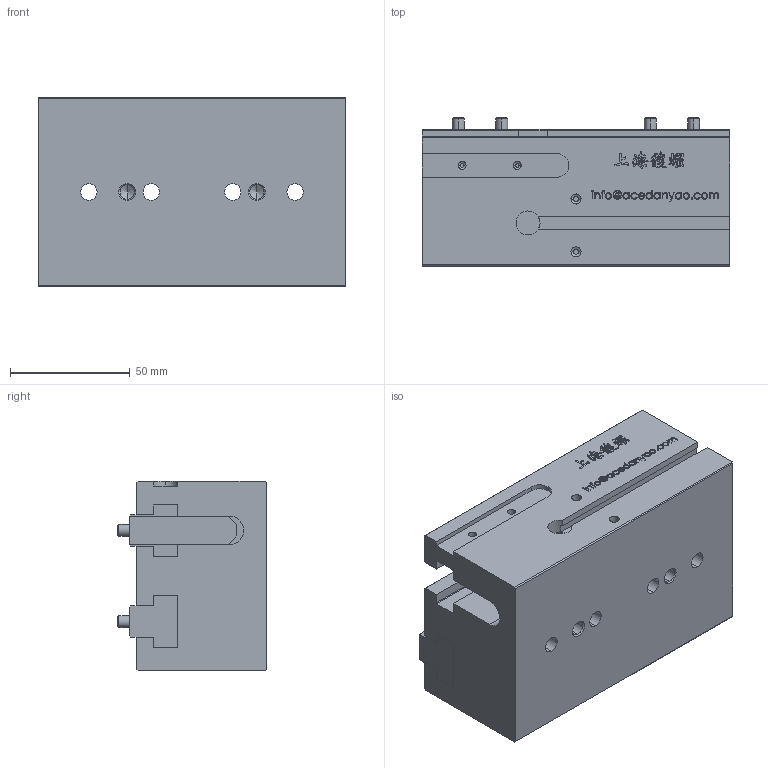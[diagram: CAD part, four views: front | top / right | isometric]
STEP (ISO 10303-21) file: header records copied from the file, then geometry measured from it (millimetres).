
FILE_DESCRIPTION (( 'STEP AP203' ), '1' );
FILE_NAME ('GPL25-40-原始檔-組合-W106.04.17.STEP', '2017-04-17T08:38:58', ( 'DanyaoCAD' ), ( '' ), 'SwSTEP 2.0', 'SolidWorks 2016', '' );
FILE_SCHEMA (( 'CONFIG_CONTROL_DESIGN' ));
Length unit declared in the file: millimetre
Products named in the file (3): Griffa; Corpo; GPL25-40-原始檔-組合-W106.04.17
Assembly tree (3 placements, depth 2):
  GPL25-40-原始檔-組合-W106.04.17
    Griffa  x2
    Corpo
Bounding box: 128 x 62 x 79 mm (x, y, z)
Volume: 471231.3 mm3; surface area: 87297.2 mm2
Topology: 3 solids, 3 shells, 1000 faces, 2773 edges, 1826 vertices
Faces by surface type: bspline 640, plane 258, cylinder 66, cone 36
Entity records: 46884 total; most frequent: CARTESIAN_POINT 26474, ORIENTED_EDGE 5286, EDGE_CURVE 2643, DIRECTION 2127, VERTEX_POINT 1753, B_SPLINE_CURVE_WITH_KNOTS 1280, VECTOR 1235, LINE 1235
